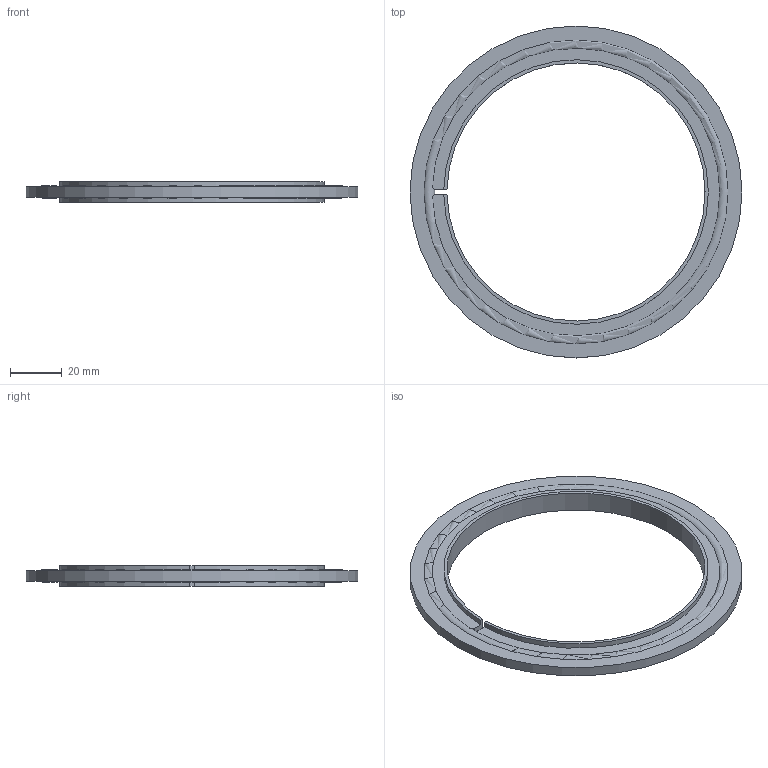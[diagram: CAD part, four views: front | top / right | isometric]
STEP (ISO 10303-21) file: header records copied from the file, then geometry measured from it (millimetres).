
FILE_DESCRIPTION( ( 'Unknown' ), '1' );
FILE_NAME( 'X:/Daten ( aktueller Bestand )/Projekte und Zeichnungen/Solid Edge/STP-Dateien/ISO-K Teile und Zubehör/6242.stp', 'Unknown', ( 'Unknown' ), ( 'Unknown' ), 'PSStep 14.0', 'Unknown', ' ' );
FILE_SCHEMA( ( 'AUTOMOTIVE_DESIGN { 1 0 10303 214 1 1 1 1 }' ) );
Length unit declared in the file: millimetre
Products named in the file (1): 1
Bounding box: 128 x 128 x 8 mm (x, y, z)
Volume: 22273.9 mm3; surface area: 15761.2 mm2
Topology: 1 solids, 1 shells, 17 faces, 43 edges, 29 vertices
Faces by surface type: plane 12, cylinder 4, torus 1
Full cylindrical faces by diameter (mm): 128 x1
Entity records: 687 total; most frequent: CARTESIAN_POINT 131, DIRECTION 82, ORIENTED_EDGE 80, EDGE_CURVE 40, AXIS2_PLACEMENT_3D 30, VERTEX_POINT 28, EDGE_LOOP 22, LINE 22
